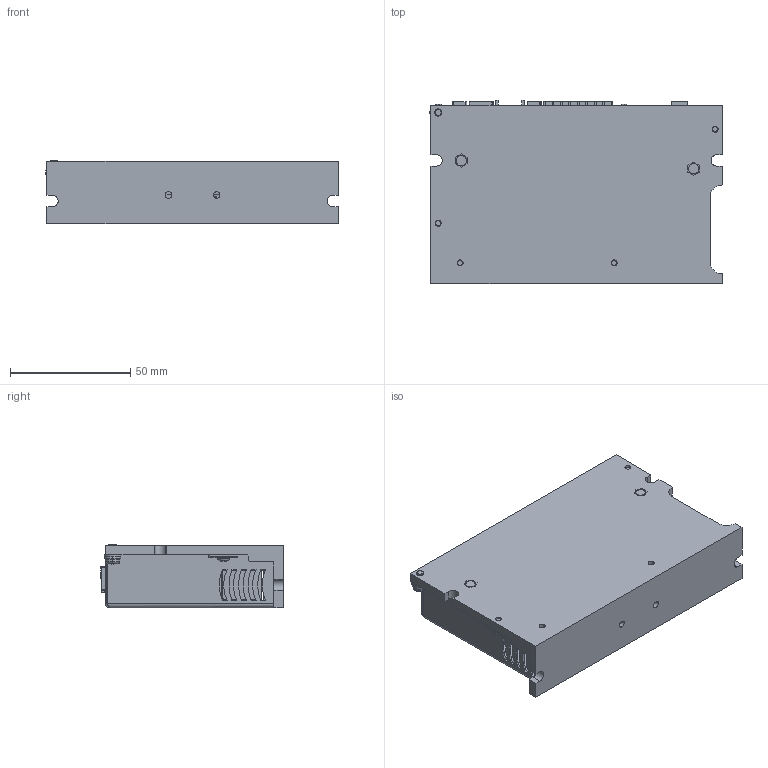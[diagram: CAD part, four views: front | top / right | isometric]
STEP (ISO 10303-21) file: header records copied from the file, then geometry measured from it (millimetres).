
FILE_DESCRIPTION((''),'2;1');
FILE_NAME('SW4D20_CON_EMD01-00_ASM','2020-07-28T09:00:05',('Matteo Maccalli'),(''),'CREO PARAMETRIC BY PTC INC, 2019344','CREO PARAMETRIC BY PTC INC, 2019344','');
FILE_SCHEMA(('AUTOMOTIVE_DESIGN { 1 0 10303 214 1 1 1 1 }'));
Products named in the file (133): ESTRUSO-00_EMD01-00_RIV7; FASTENINGS_M2_5X7MM_OK; AD_00948-00_EMD01-00; BOARD; 123; XT900_ASM; CR0603; R1018_ASM; R1017_ASM; R1016_ASM; R1015_ASM; R902_ASM; R901_ASM; R900_ASM; CAPC1608X09; L900_ASM; USER_LIBRARY-QFN24_4X4_IM-15649; USER_LIBRARY-QFN24_4X4_IM-15998; USER_LIBRARY-QFN24_4X4_IM-16753; USER_LIBRARY-QFN24_4X4_IM-17508; USER_LIBRARY-QFN24_4X4_IM-18263; USER_LIBRARY-QFN24_4X4_IM-19018; USER_LIBRARY-QFN24_4X4_IM-19773; USER_LIBRARY-QFN24_4X4_IM-20528; USER_LIBRARY-QFN24_4X4_IM-21203; USER_LIBRARY-QFN24_4X4_IM-21878; USER_LIBRARY-QFN24_4X4_IM-22553; USER_LIBRARY-QFN24_4X4_IM-23251; USER_LIBRARY-QFN24_4X4_IM-23949; USER_LIBRARY-QFN24_4X4_IM-24670; USER_LIBRARY-QFN24_4X4_IM-25345; USER_LIBRARY-QFN24_4X4_IM-26020; USER_LIBRARY-QFN24_4X4_IM-26695; USER_LIBRARY-QFN24_4X4_IM-27393; USER_LIBRARY-QFN24_4X4_IM-28091; USER_LIBRARY-QFN24_4X4_IM-28812; USER_LIBRARY-QFN24_4X4_IM-29487; USER_LIBRARY-QFN24_4X4_IM-30162; USER_LIBRARY-QFN24_4X4_IM-30860; USER_LIBRARY-QFN24_4X4_IM-31558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
Assembly tree (166 placements, depth 6):
  SW4D20_CON_EMD01-00_ASM
    ESTRUSO-00_EMD01-00_RIV7
    FASTENINGS_M2_5X7MM_OK  x2
    AD_00948-00_EMD01-00
    EMD01-00_COMPLETO_ASM
      PCB_ASM
        BOARD
        XT900_ASM
          123
        R1018_ASM
          CR0603
        R1017_ASM
          CR0603
        R1016_ASM
          CR0603
        R1015_ASM
          CR0603
        R902_ASM
          CR0603
        R901_ASM
          CR0603
        R900_ASM
          CR0603
        L900_ASM
          CAPC1608X09
        IC900_ASM
          USER_LIBRARY-QFN24_4X4_ASM
            USER_LIBRARY-QFN24_4X4_IM-15649
            USER_LIBRARY-QFN24_4X4_IM-15998
            USER_LIBRARY-QFN24_4X4_IM-16753
            USER_LIBRARY-QFN24_4X4_IM-17508
            USER_LIBRARY-QFN24_4X4_IM-18263
            USER_LIBRARY-QFN24_4X4_IM-19018
            USER_LIBRARY-QFN24_4X4_IM-19773
            USER_LIBRARY-QFN24_4X4_IM-20528
            USER_LIBRARY-QFN24_4X4_IM-21203
            USER_LIBRARY-QFN24_4X4_IM-21878
            USER_LIBRARY-QFN24_4X4_IM-22553
            USER_LIBRARY-QFN24_4X4_IM-23251
            USER_LIBRARY-QFN24_4X4_IM-23949
            USER_LIBRARY-QFN24_4X4_IM-24670
            USER_LIBRARY-QFN24_4X4_IM-25345
            USER_LIBRARY-QFN24_4X4_IM-26020
            USER_LIBRARY-QFN24_4X4_IM-26695
            USER_LIBRARY-QFN24_4X4_IM-27393
            USER_LIBRARY-QFN24_4X4_IM-28091
            USER_LIBRARY-QFN24_4X4_IM-28812
            USER_LIBRARY-QFN24_4X4_IM-29487
            USER_LIBRARY-QFN24_4X4_IM-30162
            USER_LIBRARY-QFN24_4X4_IM-30860
            USER_LIBRARY-QFN24_4X4_IM-31558
            USER_LIBRARY-QFN24_4X4_IM-32256
            USER_LIBRARY-QFN24_4X4_IM-32977
            USER_LIBRARY-QFN24_4X4_IM-36944
            USER_LIBRARY-QFN24_4X4_IM-43612
        GL500_ASM
          5151061F
        C907_ASM
          CAPC1608X09
        C906_ASM
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Bounding box: 121.5 x 75.99 x 26.5 mm (x, y, z)
Volume: 80094.3 mm3; surface area: 84384.5 mm2
Topology: 104 solids, 119 shells, 5270 faces, 14332 edges, 9310 vertices
Faces by surface type: plane 3469, cylinder 1344, sphere 190, cone 160, torus 68, bspline 39
Entity records: 179036 total; most frequent: CARTESIAN_POINT 29136, ORIENTED_EDGE 22273, DIRECTION 21142, EDGE_CURVE 11219, PRESENTATION_STYLE_ASSIGNMENT 10666, STYLED_ITEM 8945, CURVE_STYLE 8875, VECTOR 7932
